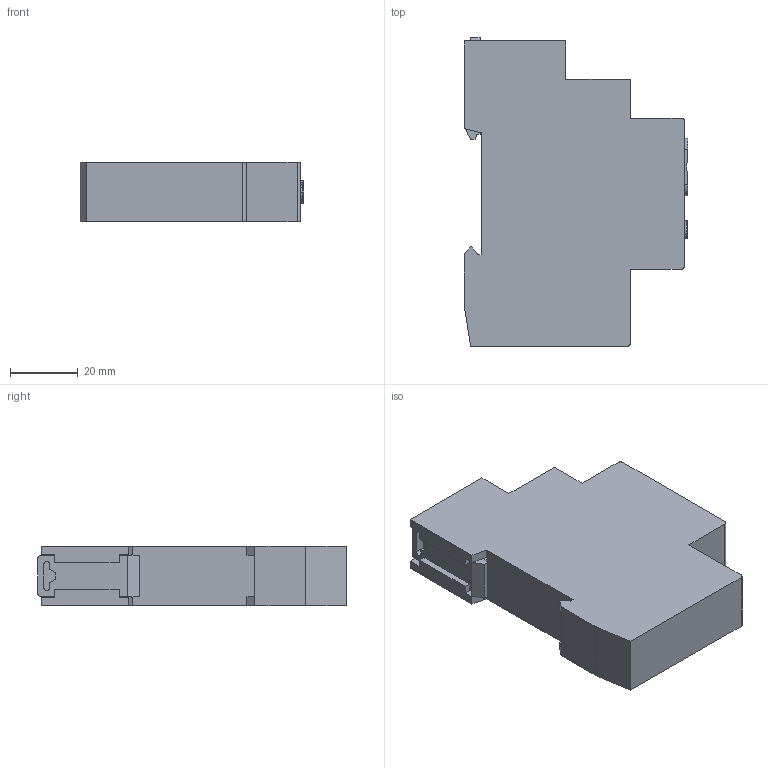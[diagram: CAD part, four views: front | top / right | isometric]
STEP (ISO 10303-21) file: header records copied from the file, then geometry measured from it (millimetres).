
FILE_DESCRIPTION (( 'STEP AP203' ), '1' );
FILE_NAME ('隋耱龛黜 蜞殪屦 RTE-Z.STEP', '2021-11-25T20:47:26', ( '' ), ( '' ), 'SwSTEP 2.0', 'SolidWorks 2017', '' );
FILE_SCHEMA (( 'CONFIG_CONTROL_DESIGN' ));
Length unit declared in the file: millimetre
Products named in the file (1): 隋耱龛黜 蜞殪屦 RTE-Z
Bounding box: 66 x 91 x 17.6 mm (x, y, z)
Volume: 82178.3 mm3; surface area: 17345.9 mm2
Topology: 8 solids, 8 shells, 255 faces, 681 edges, 448 vertices
Faces by surface type: plane 188, cylinder 60, torus 6, sphere 1
Entity records: 7962 total; most frequent: CARTESIAN_POINT 1394, ORIENTED_EDGE 1358, DIRECTION 1321, EDGE_CURVE 679, VECTOR 541, LINE 541, VERTEX_POINT 447, AXIS2_PLACEMENT_3D 390
